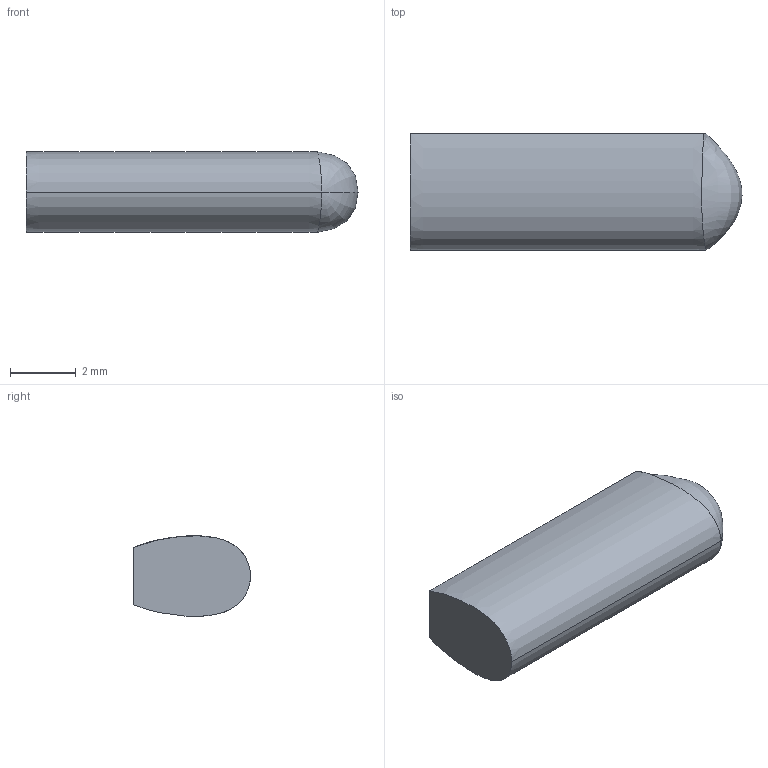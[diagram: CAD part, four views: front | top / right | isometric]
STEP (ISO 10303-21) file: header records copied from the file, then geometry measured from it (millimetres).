
FILE_DESCRIPTION((''),'1');
FILE_NAME('ELEK-ST12-10R','2001-03-30T',('rgoetz'),(''),'PRO/ENGINEER BY PARAMETRIC TECHNOLOGY CORPORATION, 2000350','PRO/ENGINEER BY PARAMETRIC TECHNOLOGY CORPORATION, 2000350','');
FILE_SCHEMA(('CONFIG_CONTROL_DESIGN'));
Length unit declared in the file: millimetre
Products named in the file (1): ELEK-ST12-10R
Bounding box: 10.1 x 3.55 x 2.45 mm (x, y, z)
Volume: 72.2 mm3; surface area: 111 mm2
Topology: 1 solids, 1 shells, 6 faces, 13 edges, 7 vertices
Faces by surface type: plane 2, extrusion 2, bspline 2
Entity records: 613 total; most frequent: CARTESIAN_POINT 472, ORIENTED_EDGE 22, EDGE_CURVE 11, DIRECTION 10, B_SPLINE_CURVE_WITH_KNOTS 9, VERTEX_POINT 7, VECTOR 6, EDGE_LOOP 6
